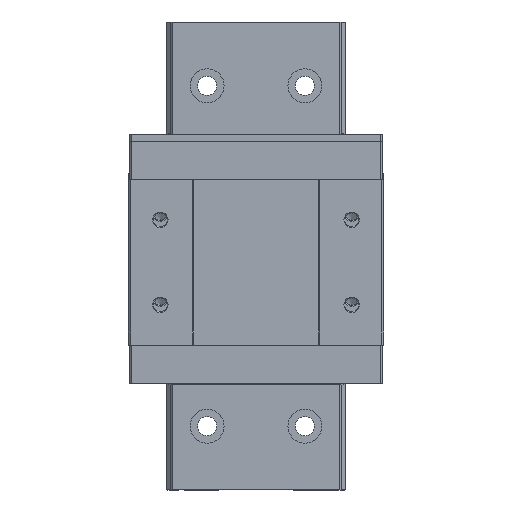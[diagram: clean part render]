
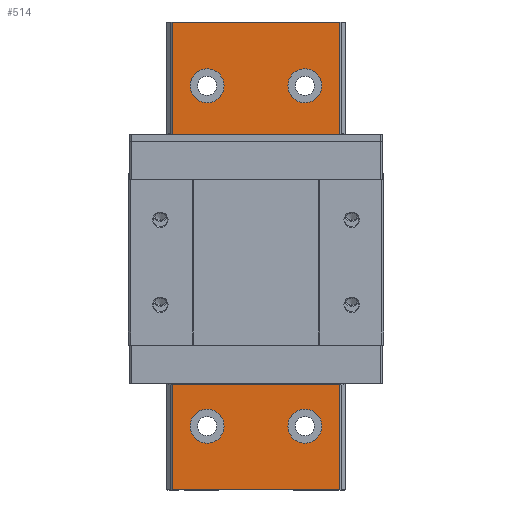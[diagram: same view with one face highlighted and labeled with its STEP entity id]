
A CAD part, top view. The second image highlights one B-rep face of the part: STEP entity #514.
In plain terms, the highlighted planar face has unit normal (0, 0, 1).
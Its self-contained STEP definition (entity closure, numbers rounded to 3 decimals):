
#514 = ADVANCED_FACE( '', ( #998, #999, #1000, #1001, #1002, #1003, #1004 ), #1005, .F. );
#998 = FACE_BOUND( '', #1468, .T. );
#999 = FACE_BOUND( '', #1469, .T. );
#1000 = FACE_BOUND( '', #1470, .T. );
#1001 = FACE_BOUND( '', #1471, .T. );
#1002 = FACE_BOUND( '', #1472, .T. );
#1003 = FACE_BOUND( '', #1473, .T. );
#1004 = FACE_OUTER_BOUND( '', #1474, .T. );
#1005 = PLANE( '', #1475 );
#1468 = EDGE_LOOP( '', ( #2105 ) );
#1469 = EDGE_LOOP( '', ( #2106 ) );
#1470 = EDGE_LOOP( '', ( #2107 ) );
#1471 = EDGE_LOOP( '', ( #2108 ) );
#1472 = EDGE_LOOP( '', ( #2109 ) );
#1473 = EDGE_LOOP( '', ( #2110 ) );
#1474 = EDGE_LOOP( '', ( #2111, #2112, #2113, #2114 ) );
#1475 = AXIS2_PLACEMENT_3D( '', #2115, #2116, #2117 );
#2105 = ORIENTED_EDGE( '', *, *, #3590, .T. );
#2106 = ORIENTED_EDGE( '', *, *, #3591, .T. );
#2107 = ORIENTED_EDGE( '', *, *, #3592, .T. );
#2108 = ORIENTED_EDGE( '', *, *, #3593, .T. );
#2109 = ORIENTED_EDGE( '', *, *, #3594, .T. );
#2110 = ORIENTED_EDGE( '', *, *, #3595, .T. );
#2111 = ORIENTED_EDGE( '', *, *, #3583, .T. );
#2112 = ORIENTED_EDGE( '', *, *, #3596, .F. );
#2113 = ORIENTED_EDGE( '', *, *, #3519, .F. );
#2114 = ORIENTED_EDGE( '', *, *, #3589, .T. );
#2115 = CARTESIAN_POINT( '', ( 19.7, -55., 4.742 ) );
#2116 = DIRECTION( '', ( 0., 0., -1. ) );
#2117 = DIRECTION( '', ( -1., 0., 0. ) );
#3519 = EDGE_CURVE( '', #4050, #4052, #4053, .T. );
#3583 = EDGE_CURVE( '', #4174, #4172, #4175, .T. );
#3589 = EDGE_CURVE( '', #4050, #4174, #4183, .T. );
#3590 = EDGE_CURVE( '', #4184, #4184, #4185, .T. );
#3591 = EDGE_CURVE( '', #4186, #4186, #4187, .T. );
#3592 = EDGE_CURVE( '', #4188, #4188, #4189, .T. );
#3593 = EDGE_CURVE( '', #4190, #4190, #4191, .T. );
#3594 = EDGE_CURVE( '', #4192, #4192, #4193, .T. );
#3595 = EDGE_CURVE( '', #4194, #4194, #4195, .T. );
#3596 = EDGE_CURVE( '', #4052, #4172, #4196, .T. );
#4050 = VERTEX_POINT( '', #4759 );
#4052 = VERTEX_POINT( '', #4762 );
#4053 = LINE( '', #4763, #4764 );
#4172 = VERTEX_POINT( '', #4919 );
#4174 = VERTEX_POINT( '', #4922 );
#4175 = LINE( '', #4923, #4924 );
#4183 = LINE( '', #4936, #4937 );
#4184 = VERTEX_POINT( '', #4938 );
#4185 = CIRCLE( '', #4939, 4. );
#4186 = VERTEX_POINT( '', #4940 );
#4187 = CIRCLE( '', #4941, 4. );
#4188 = VERTEX_POINT( '', #4942 );
#4189 = CIRCLE( '', #4943, 4. );
#4190 = VERTEX_POINT( '', #4944 );
#4191 = CIRCLE( '', #4945, 4. );
#4192 = VERTEX_POINT( '', #4946 );
#4193 = CIRCLE( '', #4947, 4. );
#4194 = VERTEX_POINT( '', #4948 );
#4195 = CIRCLE( '', #4949, 4. );
#4196 = LINE( '', #4950, #4951 );
#4759 = CARTESIAN_POINT( '', ( 19.7, -55., 4.742 ) );
#4762 = CARTESIAN_POINT( '', ( -19.7, -55., 4.742 ) );
#4763 = CARTESIAN_POINT( '', ( 19.7, -55., 4.742 ) );
#4764 = VECTOR( '', #5735, 1000. );
#4919 = CARTESIAN_POINT( '', ( -19.7, 55., 4.742 ) );
#4922 = CARTESIAN_POINT( '', ( 19.7, 55., 4.742 ) );
#4923 = CARTESIAN_POINT( '', ( 19.7, 55., 4.742 ) );
#4924 = VECTOR( '', #5851, 1000. );
#4936 = CARTESIAN_POINT( '', ( 19.7, -55., 4.742 ) );
#4937 = VECTOR( '', #5859, 1000. );
#4938 = CARTESIAN_POINT( '', ( 11.5, -4., 4.742 ) );
#4939 = AXIS2_PLACEMENT_3D( '', #5860, #5861, #5862 );
#4940 = CARTESIAN_POINT( '', ( -11.5, -4., 4.742 ) );
#4941 = AXIS2_PLACEMENT_3D( '', #5863, #5864, #5865 );
#4942 = CARTESIAN_POINT( '', ( -11.5, 36., 4.742 ) );
#4943 = AXIS2_PLACEMENT_3D( '', #5866, #5867, #5868 );
#4944 = CARTESIAN_POINT( '', ( 11.5, 36., 4.742 ) );
#4945 = AXIS2_PLACEMENT_3D( '', #5869, #5870, #5871 );
#4946 = CARTESIAN_POINT( '', ( 11.5, -44., 4.742 ) );
#4947 = AXIS2_PLACEMENT_3D( '', #5872, #5873, #5874 );
#4948 = CARTESIAN_POINT( '', ( -11.5, -44., 4.742 ) );
#4949 = AXIS2_PLACEMENT_3D( '', #5875, #5876, #5877 );
#4950 = CARTESIAN_POINT( '', ( -19.7, -55., 4.742 ) );
#4951 = VECTOR( '', #5878, 1000. );
#5735 = DIRECTION( '', ( -1., 0., 0. ) );
#5851 = DIRECTION( '', ( -1., 0., 0. ) );
#5859 = DIRECTION( '', ( 0., 1., 0. ) );
#5860 = CARTESIAN_POINT( '', ( 11.5, 0., 4.742 ) );
#5861 = DIRECTION( '', ( 0., 0., -1. ) );
#5862 = DIRECTION( '', ( 0., -1., 0. ) );
#5863 = CARTESIAN_POINT( '', ( -11.5, 0., 4.742 ) );
#5864 = DIRECTION( '', ( 0., 0., -1. ) );
#5865 = DIRECTION( '', ( 0., -1., 0. ) );
#5866 = CARTESIAN_POINT( '', ( -11.5, 40., 4.742 ) );
#5867 = DIRECTION( '', ( 0., 0., -1. ) );
#5868 = DIRECTION( '', ( 0., -1., 0. ) );
#5869 = CARTESIAN_POINT( '', ( 11.5, 40., 4.742 ) );
#5870 = DIRECTION( '', ( 0., 0., -1. ) );
#5871 = DIRECTION( '', ( 0., -1., 0. ) );
#5872 = CARTESIAN_POINT( '', ( 11.5, -40., 4.742 ) );
#5873 = DIRECTION( '', ( 0., 0., -1. ) );
#5874 = DIRECTION( '', ( 0., -1., 0. ) );
#5875 = CARTESIAN_POINT( '', ( -11.5, -40., 4.742 ) );
#5876 = DIRECTION( '', ( 0., 0., -1. ) );
#5877 = DIRECTION( '', ( 0., -1., 0. ) );
#5878 = DIRECTION( '', ( 0., 1., 0. ) );
